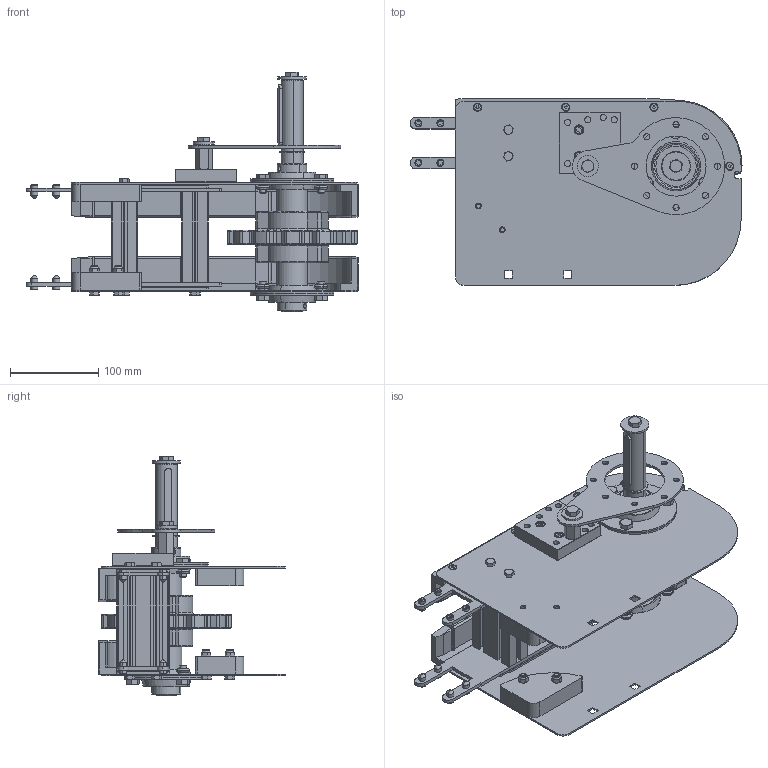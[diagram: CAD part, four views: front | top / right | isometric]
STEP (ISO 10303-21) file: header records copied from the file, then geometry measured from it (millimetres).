
FILE_DESCRIPTION (( 'STEP AP214' ), '1' );
FILE_NAME ('2000.450.149.STEP', '2021-06-18T07:28:12', ( 'Localadmin' ), ( 'Microsoft' ), 'SwSTEP 2.0', 'SolidWorks 2018', '' );
FILE_SCHEMA (( 'AUTOMOTIVE_DESIGN' ));
Length unit declared in the file: millimetre
Products named in the file (33): 2000.001.006-2; VITI TSEI UNI 5933 INOX_0410UNI5933A2; 084.802.027; 663151_NS880T12R25; VITI TE UNI 5739 INOX_M6x30 UNI 5739 INOX; SBPF205; 2000.450.149; CHIAVETTE_A 8x7x50 UNI 6604-69; VITI TE UNI 5739 INOX_M6x20 UNI 5739 INOX; CHIAVETTE_A 8x7x70 UNI 6604-69; 2000.001.011; DADI ESAGONALI AUTOBLOCCANTI UNI 7473 INOX_M6 UNI 7473 INOX; 2000.450.003; VITI TE UNI 5739 INOX_M8x16 UNI 5739 INOX; 2000.450.009; PU008.012.025N; RONDELLE FASCIA LARGA UNI 6593 INOX_8.4x24 UNI 6593 INOX; 084.312.006; Circlip DIN 471 - 25 x 1.2_Circlip DIN 471 - 25 x 1.2; 084.808.004; GRANI A PUNTA PIATTA UNI 5923_M8x20 UNI 5923; 2000.450.002; 2000.450.008; RONDELLE FASCIA LARGA UNI 6593 INOX_8.4x32 UNI 6593 INOX; 2000.450.001; VITI TE UNI 5739 INOX_M8x20 UNI 5739 INOX; 2000.450.101-1; 2000.001.003-3; VITI TCEI UNI 5931 INOX_M6x30 UNI 5931 INOX; 2000.001.026; 2000.001.004-3; GRANI A PUNTA CONICA UNI 5927_M8x16 UNI 5927; 2000.001.001
Assembly tree (72 placements, depth 2):
  2000.450.149
    084.802.027
    2000.001.006-2  x2
    2000.001.001  x2
    2000.001.004-3
    2000.001.026  x2
    2000.001.003-3
    2000.450.101-1
    2000.450.001  x2
    2000.450.008
    2000.450.002  x2
    084.808.004
    084.312.006  x6
    PU008.012.025N
    2000.450.009
    2000.450.003  x2
    2000.001.011
    CHIAVETTE_A 8x7x70 UNI 6604-69
    CHIAVETTE_A 8x7x50 UNI 6604-69
    SBPF205  x2
    663151_NS880T12R25
    VITI TSEI UNI 5933 INOX_0410UNI5933A2  x8
    GRANI A PUNTA CONICA UNI 5927_M8x16 UNI 5927  x8
    VITI TCEI UNI 5931 INOX_M6x30 UNI 5931 INOX  x2
    VITI TE UNI 5739 INOX_M8x20 UNI 5739 INOX
    RONDELLE FASCIA LARGA UNI 6593 INOX_8.4x32 UNI 6593 INOX
    GRANI A PUNTA PIATTA UNI 5923_M8x20 UNI 5923
    Circlip DIN 471 - 25 x 1.2_Circlip DIN 471 - 25 x 1.2
    RONDELLE FASCIA LARGA UNI 6593 INOX_8.4x24 UNI 6593 INOX
    VITI TE UNI 5739 INOX_M8x16 UNI 5739 INOX  x7
    DADI ESAGONALI AUTOBLOCCANTI UNI 7473 INOX_M6 UNI 7473 INOX  x2
    VITI TE UNI 5739 INOX_M6x20 UNI 5739 INOX  x6
    VITI TE UNI 5739 INOX_M6x30 UNI 5739 INOX  x2
Bounding box: 376.25 x 211.8 x 271.33 mm (x, y, z)
Volume: 1602152 mm3; surface area: 818194.6 mm2
Topology: 70 solids, 76 shells, 2117 faces, 5126 edges, 3205 vertices
Faces by surface type: plane 874, cylinder 709, cone 286, torus 184, bspline 64
Entity records: 40401 total; most frequent: CARTESIAN_POINT 7691, DIRECTION 6898, ORIENTED_EDGE 6176, EDGE_CURVE 3090, AXIS2_PLACEMENT_3D 2670, VERTEX_POINT 1935, VECTOR 1558, LINE 1558
